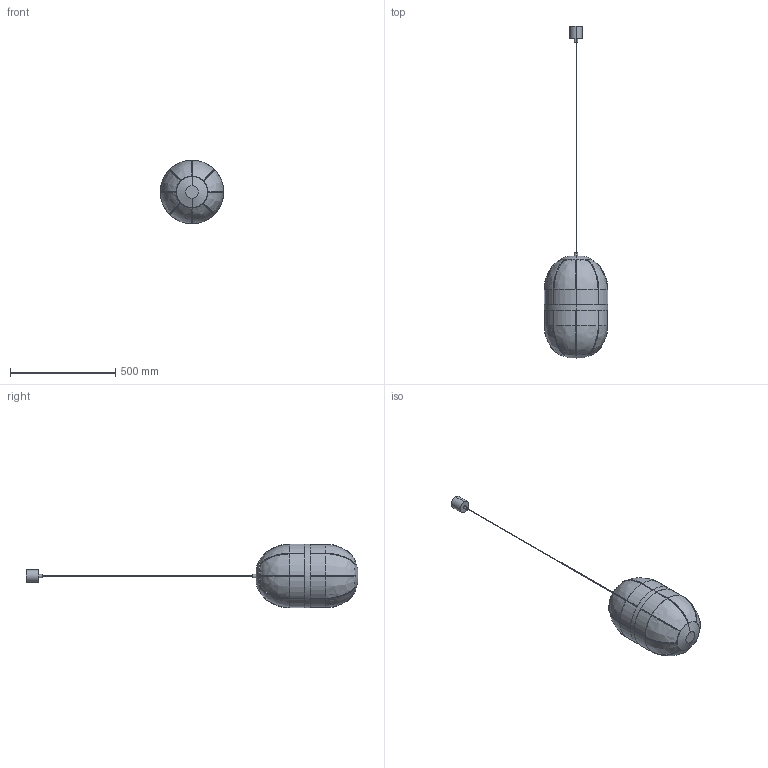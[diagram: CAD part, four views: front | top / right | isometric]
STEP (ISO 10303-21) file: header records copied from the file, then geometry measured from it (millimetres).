
FILE_DESCRIPTION (( 'STEP AP214' ), '1' );
FILE_NAME ('PULL_C1249.STEP', '2024-12-17T11:17:38', ( '' ), ( '' ), 'SwSTEP 2.0', 'SolidWorks 2018', '' );
FILE_SCHEMA (( 'AUTOMOTIVE_DESIGN' ));
Length unit declared in the file: millimetre
Products named in the file (1): PULL_C1249
Bounding box: 303 x 1580 x 303 mm (x, y, z)
Volume: 1444470.8 mm3; surface area: 964526.6 mm2
Topology: 15 solids, 15 shells, 208 faces, 538 edges, 332 vertices
Faces by surface type: bspline 80, plane 62, cylinder 56, cone 6, torus 4
Entity records: 16102 total; most frequent: CARTESIAN_POINT 11517, ORIENTED_EDGE 1068, DIRECTION 744, EDGE_CURVE 534, AXIS2_PLACEMENT_3D 341, VERTEX_POINT 330, B_SPLINE_CURVE_WITH_KNOTS 244, EDGE_LOOP 216
